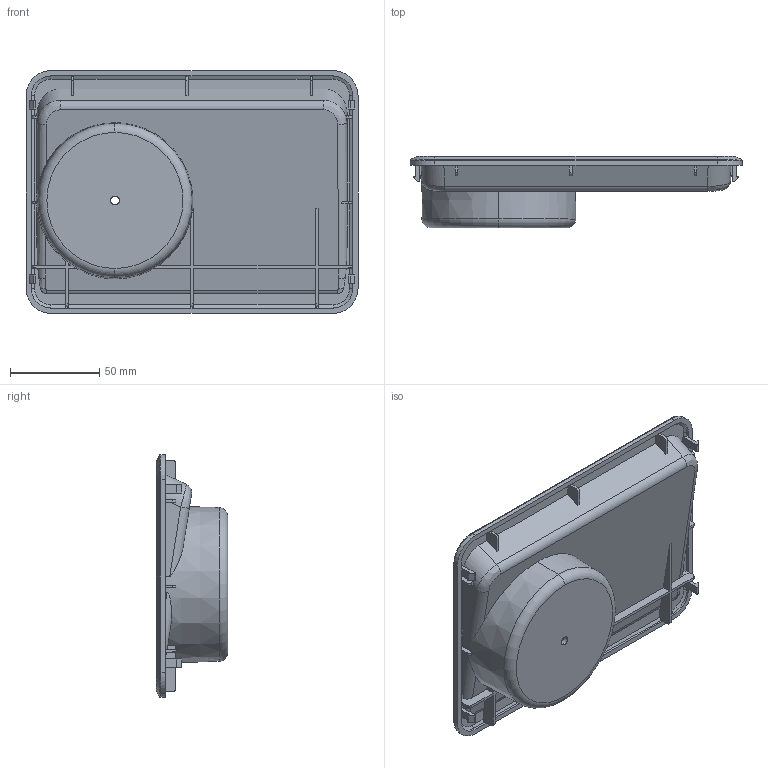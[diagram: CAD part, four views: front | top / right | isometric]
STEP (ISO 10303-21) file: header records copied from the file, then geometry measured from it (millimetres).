
FILE_DESCRIPTION (( 'STEP AP214' ), '1' );
FILE_NAME ('SU19029.STEP', '2026-09-20T10:13:18', ( 'Windows 蚚誧' ), ( 'Organization' ), 'SwSTEP 2.0', 'SolidWorks 2024', '' );
FILE_SCHEMA (( 'AUTOMOTIVE_DESIGN' ));
Length unit declared in the file: millimetre
Products named in the file (1): SU19029
Bounding box: 186 x 40 x 136 mm (x, y, z)
Volume: 123827.5 mm3; surface area: 87846.4 mm2
Topology: 2 solids, 2 shells, 3798 faces, 10767 edges, 7153 vertices
Faces by surface type: cylinder 2002, plane 1730, bspline 27, torus 23, cone 14, sphere 2
Entity records: 125971 total; most frequent: CARTESIAN_POINT 23473, DIRECTION 22291, ORIENTED_EDGE 21534, EDGE_CURVE 10767, AXIS2_PLACEMENT_3D 7841, VERTEX_POINT 7153, VECTOR 6609, LINE 6609
